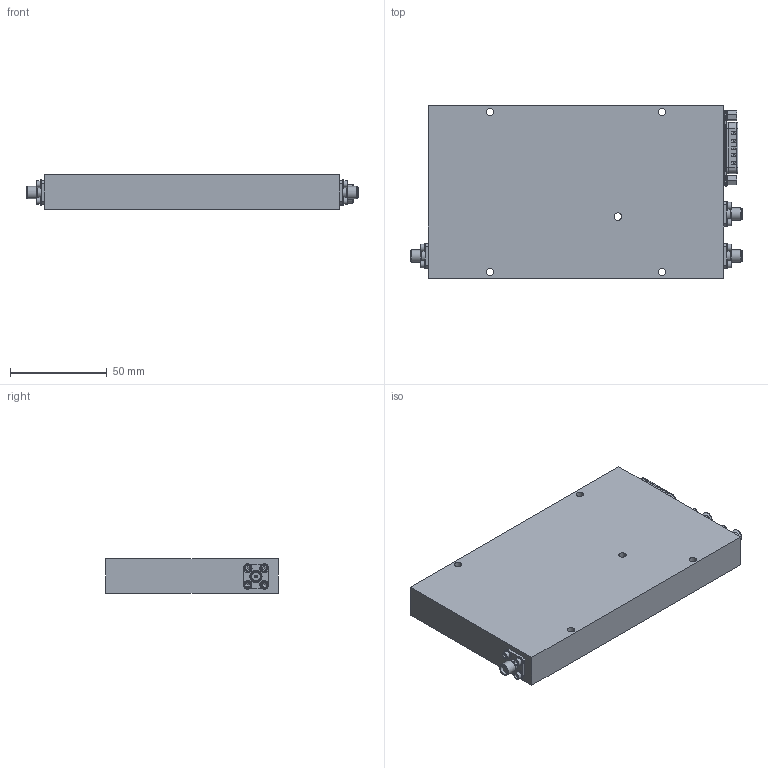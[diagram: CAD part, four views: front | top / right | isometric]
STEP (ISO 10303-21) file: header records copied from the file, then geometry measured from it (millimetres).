
FILE_DESCRIPTION((''),'2;1');
FILE_NAME('\\serpentor\Engineering\ENG\Models\TAxxxx\TA1011 1700-2200MHz 12Watt Class A\Design\Inventor\107.stp','2015-08-05T14:10:55',('dcampbell'),(''),'Autodesk Inventor 2013','Autodesk Inventor 2013','');
FILE_SCHEMA(('AUTOMOTIVE_DESIGN { 1 0 10303 214 1 1 1 1 }'));
Length unit declared in the file: inch
Products named in the file (9): TA1011_3D_MODEL; T531262701_3D_MODEL; SMA_3D; Hexagon Socket Head Cap Screw - Inch No. 2 - 56 UNC - 3/16; Regular Helical Spring Lock Washer (Inch) No.2; 561-001; Helical Spring Lock Washers 0.112; 7W2M_3D; 7W2PIN_3D
Assembly tree (35 placements, depth 2):
  TA1011_3D_MODEL
    T531262701_3D_MODEL
    SMA_3D  x3
    Hexagon Socket Head Cap Screw - Inch No. 2 - 56 UNC - 3/16  x12
    Regular Helical Spring Lock Washer (Inch) No.2  x12
    561-001  x2
    Helical Spring Lock Washers 0.112  x2
    7W2M_3D
    7W2PIN_3D  x2
Bounding box: 171.45 x 88.9 x 17.6 mm (x, y, z)
Volume: 241282.1 mm3; surface area: 44647.8 mm2
Topology: 35 solids, 37 shells, 902 faces, 2083 edges, 1340 vertices
Faces by surface type: plane 530, cylinder 246, torus 57, cone 55, bspline 7, sphere 7
Full cylindrical faces by diameter (mm): 0.737 x3, 1 x10, 1.245 x3, 1.295 x3, 1.6 x5, 1.702 x12, 2.159 x4, 2.184 x12, 2.591 x12, 2.769 x2, 3 x2, 3.556 x12, 3.6 x4, 3.81 x5, 4.597 x3, 4.6 x2, 4.73 x4, 5.28 x2, 5.486 x6, 5.5 x2, 6.35 x3
Entity records: 17068 total; most frequent: CARTESIAN_POINT 3565, DIRECTION 2778, ORIENTED_EDGE 2504, EDGE_CURVE 1252, AXIS2_PLACEMENT_3D 999, VERTEX_POINT 851, VECTOR 780, LINE 780
